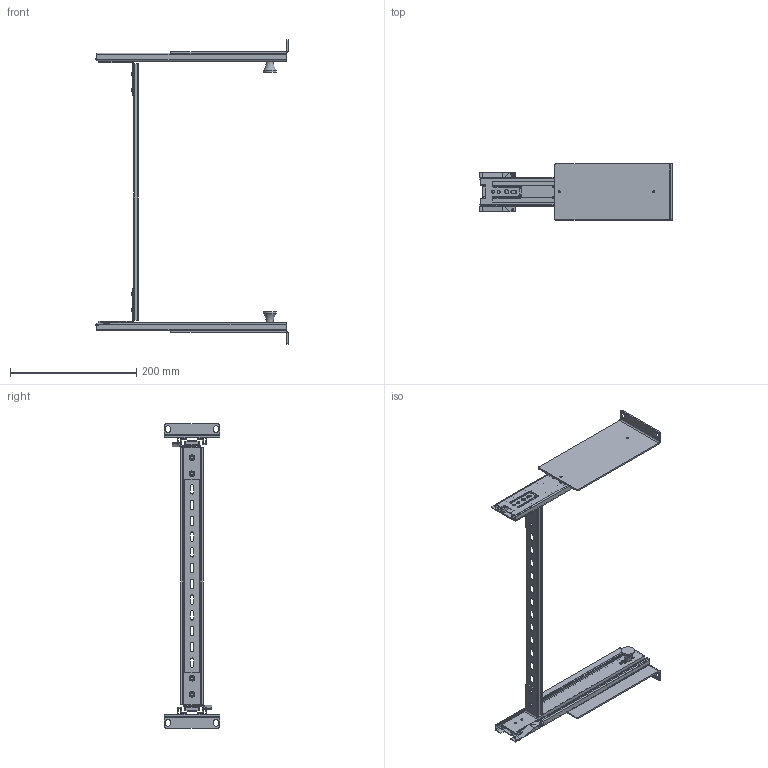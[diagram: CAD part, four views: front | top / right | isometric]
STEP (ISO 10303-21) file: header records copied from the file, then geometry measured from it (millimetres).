
FILE_DESCRIPTION((''),'2;1');
FILE_NAME('CU_RACKMOUNT_SLIDING','2007-08-17T',('jpearson'),(''),'PRO/ENGINEER BY PARAMETRIC TECHNOLOGY CORPORATION, 2006080','PRO/ENGINEER BY PARAMETRIC TECHNOLOGY CORPORATION, 2006080','');
FILE_SCHEMA(('CONFIG_CONTROL_DESIGN'));
Length unit declared in the file: inch
Products named in the file (1): CU_RACKMOUNT_SLIDING
Bounding box: 305.16 x 88.1 x 481.61 mm (x, y, z)
Volume: 235791.1 mm3; surface area: 277049.5 mm2
Topology: 1 solids, 1 shells, 926 faces, 2510 edges, 1516 vertices
Faces by surface type: plane 494, cylinder 320, bspline 80, cone 12, torus 12, sphere 8
Entity records: 30502 total; most frequent: CARTESIAN_POINT 7342, ORIENTED_EDGE 4848, DIRECTION 4730, EDGE_CURVE 2424, AXIS2_PLACEMENT_3D 1622, VERTEX_POINT 1590, VECTOR 1486, LINE 1486
